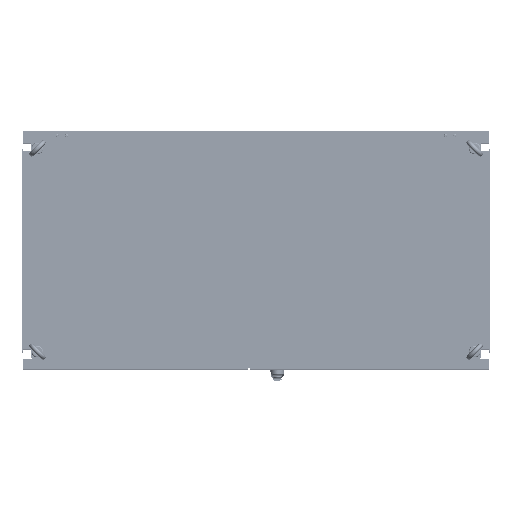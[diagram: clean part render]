
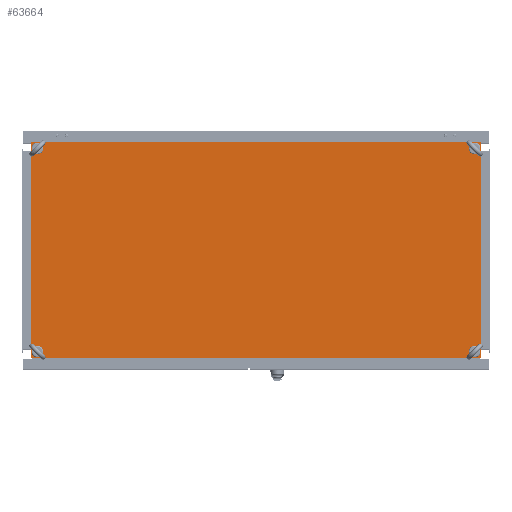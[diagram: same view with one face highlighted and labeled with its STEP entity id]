
A CAD part, top view. The second image highlights one B-rep face of the part: STEP entity #63664.
In plain terms, the highlighted planar face has unit normal (0, 0, 1).
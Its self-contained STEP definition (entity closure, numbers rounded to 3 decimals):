
#77=VERTEX_LOOP('',#36008);
#78=VERTEX_LOOP('',#36009);
#79=VERTEX_LOOP('',#36010);
#80=VERTEX_LOOP('',#36011);
#3858=PLANE('',#70969);
#5337=CIRCLE('',#70970,6.5);
#5338=CIRCLE('',#70971,6.5);
#5339=CIRCLE('',#70972,6.5);
#5340=CIRCLE('',#70973,6.5);
#21300=ORIENTED_EDGE('',*,*,#30024,.F.);
#21301=ORIENTED_EDGE('',*,*,#30025,.F.);
#21302=ORIENTED_EDGE('',*,*,#30026,.F.);
#21303=ORIENTED_EDGE('',*,*,#30027,.F.);
#21304=ORIENTED_EDGE('',*,*,#30028,.F.);
#21305=ORIENTED_EDGE('',*,*,#30029,.F.);
#21306=ORIENTED_EDGE('',*,*,#30030,.F.);
#21307=ORIENTED_EDGE('',*,*,#30031,.F.);
#30024=EDGE_CURVE('',#36004,#36004,#5337,.T.);
#30025=EDGE_CURVE('',#36005,#36005,#5338,.T.);
#30026=EDGE_CURVE('',#36006,#36006,#5339,.T.);
#30027=EDGE_CURVE('',#36007,#36007,#5340,.T.);
#30028=EDGE_CURVE('',#36012,#36013,#42615,.T.);
#30029=EDGE_CURVE('',#36014,#36012,#42616,.T.);
#30030=EDGE_CURVE('',#36015,#36014,#42617,.T.);
#30031=EDGE_CURVE('',#36013,#36015,#42618,.T.);
#36004=VERTEX_POINT('',#105858);
#36005=VERTEX_POINT('',#105860);
#36006=VERTEX_POINT('',#105862);
#36007=VERTEX_POINT('',#105864);
#36008=VERTEX_POINT('',#105865);
#36009=VERTEX_POINT('',#105866);
#36010=VERTEX_POINT('',#105867);
#36011=VERTEX_POINT('',#105868);
#36012=VERTEX_POINT('',#105870);
#36013=VERTEX_POINT('',#105871);
#36014=VERTEX_POINT('',#105873);
#36015=VERTEX_POINT('',#105875);
#42615=LINE('',#105869,#49129);
#42616=LINE('',#105872,#49130);
#42617=LINE('',#105874,#49131);
#42618=LINE('',#105876,#49132);
#49129=VECTOR('',#86699,1000.);
#49130=VECTOR('',#86700,1000.);
#49131=VECTOR('',#86701,1000.);
#49132=VECTOR('',#86702,1000.);
#54348=EDGE_LOOP('',(#21300));
#54349=EDGE_LOOP('',(#21301));
#54350=EDGE_LOOP('',(#21302));
#54351=EDGE_LOOP('',(#21303));
#54352=EDGE_LOOP('',(#21304,#21305,#21306,#21307));
#59680=FACE_BOUND('',#54348,.T.);
#59681=FACE_BOUND('',#54349,.T.);
#59682=FACE_BOUND('',#54350,.T.);
#59683=FACE_BOUND('',#54351,.T.);
#59684=FACE_BOUND('',#77,.T.);
#59685=FACE_BOUND('',#78,.T.);
#59686=FACE_BOUND('',#79,.T.);
#59687=FACE_BOUND('',#80,.T.);
#59688=FACE_BOUND('',#54352,.T.);
#63664=ADVANCED_FACE('',(#59680,#59681,#59682,#59683,#59684,#59685,#59686,
#59687,#59688),#3858,.F.);
#70969=AXIS2_PLACEMENT_3D('',#105856,#86689,#86690);
#70970=AXIS2_PLACEMENT_3D('',#105857,#86691,#86692);
#70971=AXIS2_PLACEMENT_3D('',#105859,#86693,#86694);
#70972=AXIS2_PLACEMENT_3D('',#105861,#86695,#86696);
#70973=AXIS2_PLACEMENT_3D('',#105863,#86697,#86698);
#86689=DIRECTION('',(0.,0.,-1.));
#86690=DIRECTION('',(-1.,0.,0.));
#86691=DIRECTION('',(0.,0.,1.));
#86692=DIRECTION('',(1.,0.,0.));
#86693=DIRECTION('',(0.,0.,1.));
#86694=DIRECTION('',(1.,0.,0.));
#86695=DIRECTION('',(0.,0.,1.));
#86696=DIRECTION('',(1.,0.,0.));
#86697=DIRECTION('',(0.,0.,1.));
#86698=DIRECTION('',(1.,0.,0.));
#86699=DIRECTION('',(0.,1.,0.));
#86700=DIRECTION('',(-1.,0.,0.));
#86701=DIRECTION('',(0.,-1.,0.));
#86702=DIRECTION('',(1.,0.,0.));
#105856=CARTESIAN_POINT('',(0.,0.,0.));
#105857=CARTESIAN_POINT('',(560.5,260.5,0.));
#105858=CARTESIAN_POINT('',(567.,260.5,0.));
#105859=CARTESIAN_POINT('',(-560.5,260.5,0.));
#105860=CARTESIAN_POINT('',(-554.,260.5,0.));
#105861=CARTESIAN_POINT('',(560.5,-260.5,0.));
#105862=CARTESIAN_POINT('',(567.,-260.5,0.));
#105863=CARTESIAN_POINT('',(-560.5,-260.5,0.));
#105864=CARTESIAN_POINT('',(-554.,-260.5,0.));
#105865=CARTESIAN_POINT('',(574.2,274.201,0.));
#105866=CARTESIAN_POINT('',(574.201,-274.201,0.));
#105867=CARTESIAN_POINT('',(-574.2,-274.201,0.));
#105868=CARTESIAN_POINT('',(-574.201,274.201,0.));
#105869=CARTESIAN_POINT('',(-577.,-277.,0.));
#105870=CARTESIAN_POINT('',(-577.,-277.,0.));
#105871=CARTESIAN_POINT('',(-577.,277.,0.));
#105872=CARTESIAN_POINT('',(577.,-277.,0.));
#105873=CARTESIAN_POINT('',(577.,-277.,0.));
#105874=CARTESIAN_POINT('',(577.,277.,0.));
#105875=CARTESIAN_POINT('',(577.,277.,0.));
#105876=CARTESIAN_POINT('',(-577.,277.,0.));
